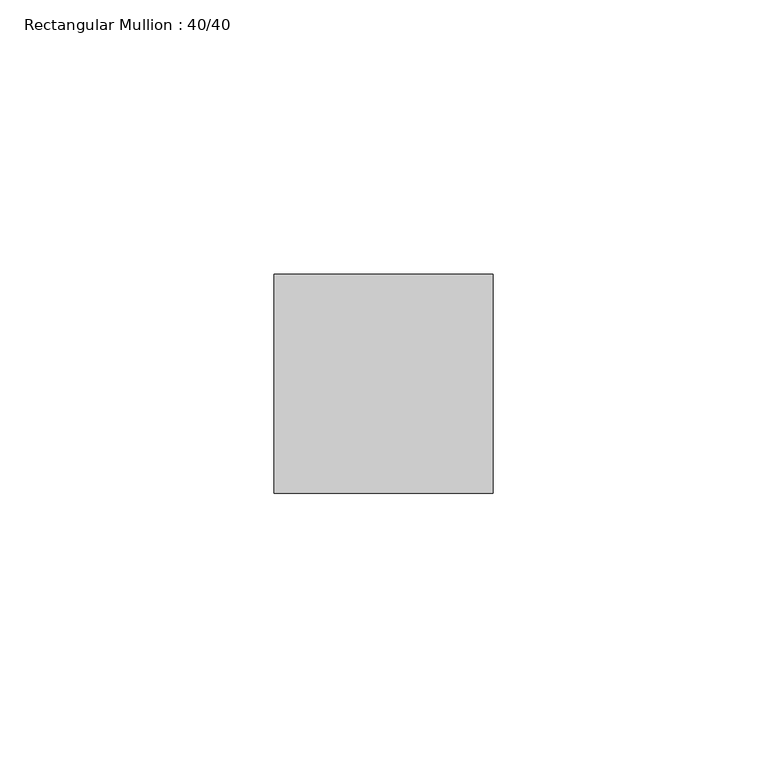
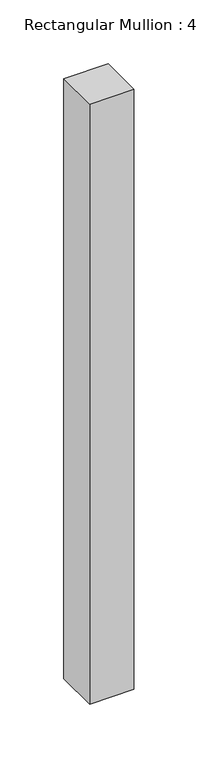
"""IFC4 building model written with IfcOpenShell, lengths in millimetres: member geometry, Rectangular Mullion : 40/40."""

from ifc_helpers import new_model, si_unit, frame, origin, place, context, project, spatial, polyline, outline, extrude, source, transform, mapped, element, save


def rectangular_mullion_40_40_65788530(model_context):
    return source(origin(), model_context, "Body", "SweptSolid", [
        extrude(outline(polyline([(0.0, 20.0), (0.0, -20.0), (-40.0, -20.0), (-40.0, 20.0), (0.0, 20.0)])), frame((0.0, 0.0, -572.613098), z_axis=(0.0, 0.0, 1.0), x_axis=(1.0, 0.0, 0.0)), (0.0, 0.0, 1.0), 572.613098),
    ])


if __name__ == "__main__":
    model = new_model("IFC4")
    model_context = context("Model", 3, world=origin())
    ifc_project = project(units=[si_unit("LENGTHUNIT", "METRE", prefix="MILLI")], contexts=[model_context])
    site = spatial("IfcSite", under=ifc_project)
    building = spatial("IfcBuilding", under=site)
    placement = place(None, origin())
    rectangular_mullion_40_40_shape = rectangular_mullion_40_40_65788530(model_context)
    element("IfcMember", 1, ObjectType="Rectangular Mullion : 40/40", at=placement, inside=building, context=model_context, shape_type="MappedRepresentation", body=[
        mapped(rectangular_mullion_40_40_shape, transform((0.0, 0.0, 0.0), x_axis=(1.0, 0.0, 0.0), y_axis=(0.0, 1.0, 0.0), z_axis=(0.0, 0.0, 1.0))),
    ])
    save(model, "model.ifc")
